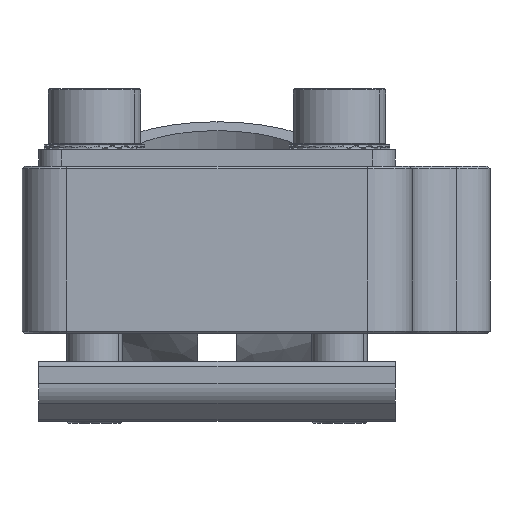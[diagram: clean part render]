
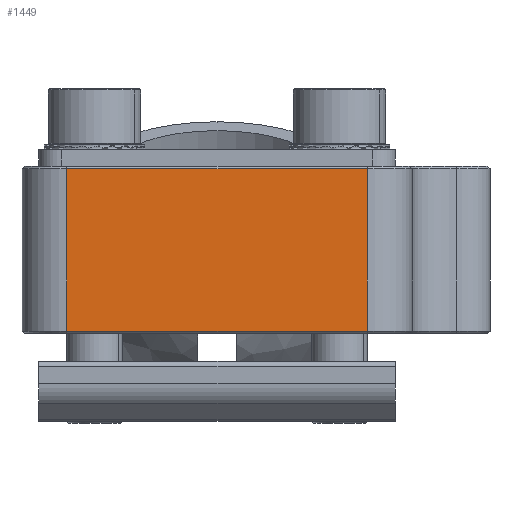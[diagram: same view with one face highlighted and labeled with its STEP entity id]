
A CAD part, left-side view. The second image highlights one B-rep face of the part: STEP entity #1449.
In plain terms, the highlighted planar face has unit normal (-1, 0, 0).
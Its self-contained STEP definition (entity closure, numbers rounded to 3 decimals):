
#712=PLANE('',#14692);
#1449=ADVANCED_FACE('',(#2179),#712,.F.);
#2179=FACE_OUTER_BOUND('',#2889,.T.);
#2889=EDGE_LOOP('',(#9212,#9213,#9214,#9215));
#4158=LINE('',#22720,#5439);
#4159=LINE('',#22726,#5440);
#4160=LINE('',#22729,#5441);
#4161=LINE('',#22730,#5442);
#5439=VECTOR('',#18551,1.);
#5440=VECTOR('',#18558,1.);
#5441=VECTOR('',#18559,1.);
#5442=VECTOR('',#18560,1.);
#9212=ORIENTED_EDGE('',*,*,#12639,.F.);
#9213=ORIENTED_EDGE('',*,*,#12640,.T.);
#9214=ORIENTED_EDGE('',*,*,#12636,.T.);
#9215=ORIENTED_EDGE('',*,*,#12641,.T.);
#10719=VERTEX_POINT('',#22721);
#10720=VERTEX_POINT('',#22722);
#10721=VERTEX_POINT('',#22727);
#10722=VERTEX_POINT('',#22728);
#12636=EDGE_CURVE('',#10719,#10720,#4158,.T.);
#12639=EDGE_CURVE('',#10721,#10722,#4159,.T.);
#12640=EDGE_CURVE('',#10721,#10719,#4160,.T.);
#12641=EDGE_CURVE('',#10720,#10722,#4161,.T.);
#14692=AXIS2_PLACEMENT_3D('',#22731,#18561,#18562);
#18551=DIRECTION('',(0.,0.,-1.));
#18558=DIRECTION('',(0.,0.,-1.));
#18559=DIRECTION('',(0.,1.,0.));
#18560=DIRECTION('',(0.,-1.,0.));
#18561=DIRECTION('',(1.,0.,0.));
#18562=DIRECTION('',(0.,0.,-1.));
#22720=CARTESIAN_POINT('',(-97.5,13.5,7.5));
#22721=CARTESIAN_POINT('',(-97.5,13.5,7.3));
#22722=CARTESIAN_POINT('',(-97.5,13.5,-7.3));
#22726=CARTESIAN_POINT('',(-97.5,-13.5,7.5));
#22727=CARTESIAN_POINT('',(-97.5,-13.5,7.3));
#22728=CARTESIAN_POINT('',(-97.5,-13.5,-7.3));
#22729=CARTESIAN_POINT('',(-97.5,13.5,7.3));
#22730=CARTESIAN_POINT('',(-97.5,-13.5,-7.3));
#22731=CARTESIAN_POINT('',(-97.5,13.5,7.5));
